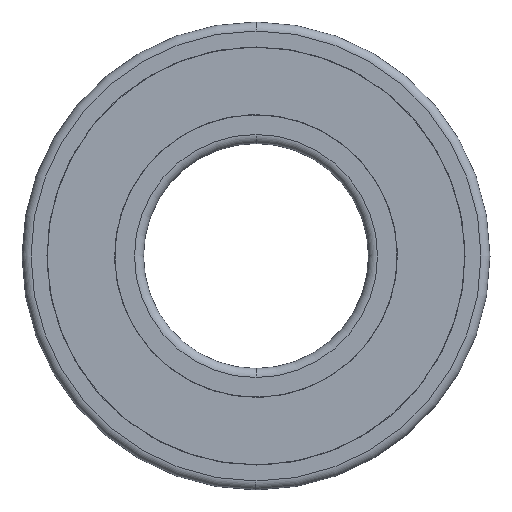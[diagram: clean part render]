
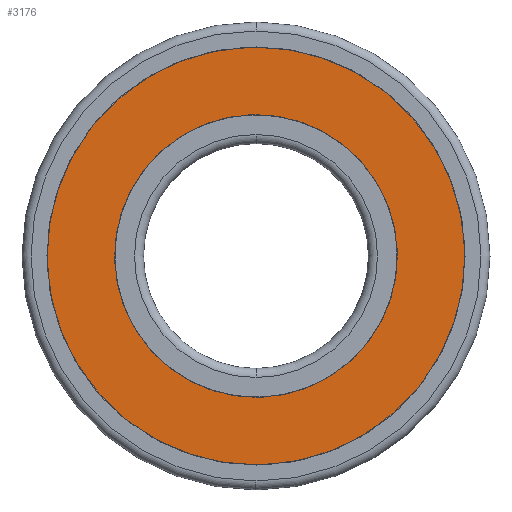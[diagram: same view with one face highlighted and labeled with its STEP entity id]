
A CAD part, left-side view. The second image highlights one B-rep face of the part: STEP entity #3176.
In plain terms, the highlighted planar face has unit normal (-1, 0, 0).
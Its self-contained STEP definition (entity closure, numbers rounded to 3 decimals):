
#7 = AXIS2_PLACEMENT_3D ( 'NONE', #3191, #1171, #442 ) ;
#62 = EDGE_CURVE ( 'NONE', #1336, #2348, #3084, .T. ) ;
#133 = CARTESIAN_POINT ( 'NONE',  ( -9., 14.019, -18.517 ) ) ;
#153 = ORIENTED_EDGE ( 'NONE', *, *, #1594, .F. ) ;
#164 = VERTEX_POINT ( 'NONE', #2813 ) ;
#442 = DIRECTION ( 'NONE',  ( 0., 0.797, 0.604 ) ) ;
#514 = DIRECTION ( 'NONE',  ( 1., 0., 0. ) ) ;
#740 = ORIENTED_EDGE ( 'NONE', *, *, #957, .T. ) ;
#877 = DIRECTION ( 'NONE',  ( 1., 0., 0. ) ) ;
#957 = EDGE_CURVE ( 'NONE', #1790, #164, #2778, .T. ) ;
#1000 = CARTESIAN_POINT ( 'NONE',  ( -9., 0., 0. ) ) ;
#1139 = CARTESIAN_POINT ( 'NONE',  ( -9., 0., 0. ) ) ;
#1171 = DIRECTION ( 'NONE',  ( 1., 0., 0. ) ) ;
#1336 = VERTEX_POINT ( 'NONE', #2543 ) ;
#1411 = ORIENTED_EDGE ( 'NONE', *, *, #62, .F. ) ;
#1444 = AXIS2_PLACEMENT_3D ( 'NONE', #1139, #877, #2114 ) ;
#1534 = EDGE_CURVE ( 'NONE', #164, #1790, #2105, .T. ) ;
#1545 = AXIS2_PLACEMENT_3D ( 'NONE', #1000, #2961, #1673 ) ;
#1594 = EDGE_CURVE ( 'NONE', #2348, #1336, #2986, .T. ) ;
#1607 = FACE_OUTER_BOUND ( 'NONE', #2810, .T. ) ;
#1632 = FACE_BOUND ( 'NONE', #2293, .T. ) ;
#1673 = DIRECTION ( 'NONE',  ( 0., 0.797, 0.604 ) ) ;
#1728 = DIRECTION ( 'NONE',  ( 0., -0.797, -0.604 ) ) ;
#1790 = VERTEX_POINT ( 'NONE', #2840 ) ;
#1859 = AXIS2_PLACEMENT_3D ( 'NONE', #2154, #1910, #1728 ) ;
#1910 = DIRECTION ( 'NONE',  ( -1., 0., 0. ) ) ;
#2020 = DIRECTION ( 'NONE',  ( 0., 0.797, 0.604 ) ) ;
#2105 = CIRCLE ( 'NONE', #1545, 15.7 ) ;
#2114 = DIRECTION ( 'NONE',  ( 0., 0.797, 0.604 ) ) ;
#2154 = CARTESIAN_POINT ( 'NONE',  ( -9., -14.019, 18.517 ) ) ;
#2274 = CARTESIAN_POINT ( 'NONE',  ( -9., 0., 0. ) ) ;
#2281 = ORIENTED_EDGE ( 'NONE', *, *, #1534, .T. ) ;
#2291 = AXIS2_PLACEMENT_3D ( 'NONE', #2274, #514, #2020 ) ;
#2293 = EDGE_LOOP ( 'NONE', ( #740, #2281 ) ) ;
#2348 = VERTEX_POINT ( 'NONE', #133 ) ;
#2543 = CARTESIAN_POINT ( 'NONE',  ( -9., -14.019, 18.517 ) ) ;
#2778 = CIRCLE ( 'NONE', #1444, 15.7 ) ;
#2810 = EDGE_LOOP ( 'NONE', ( #1411, #153 ) ) ;
#2813 = CARTESIAN_POINT ( 'NONE',  ( -9., 9.477, -12.517 ) ) ;
#2840 = CARTESIAN_POINT ( 'NONE',  ( -9., -9.477, 12.517 ) ) ;
#2891 = PLANE ( 'NONE',  #1859 ) ;
#2961 = DIRECTION ( 'NONE',  ( 1., 0., 0. ) ) ;
#2986 = CIRCLE ( 'NONE', #7, 23.225 ) ;
#3084 = CIRCLE ( 'NONE', #2291, 23.225 ) ;
#3176 = ADVANCED_FACE ( 'NONE', ( #1632, #1607 ), #2891, .T. ) ;
#3191 = CARTESIAN_POINT ( 'NONE',  ( -9., 0., 0. ) ) ;
